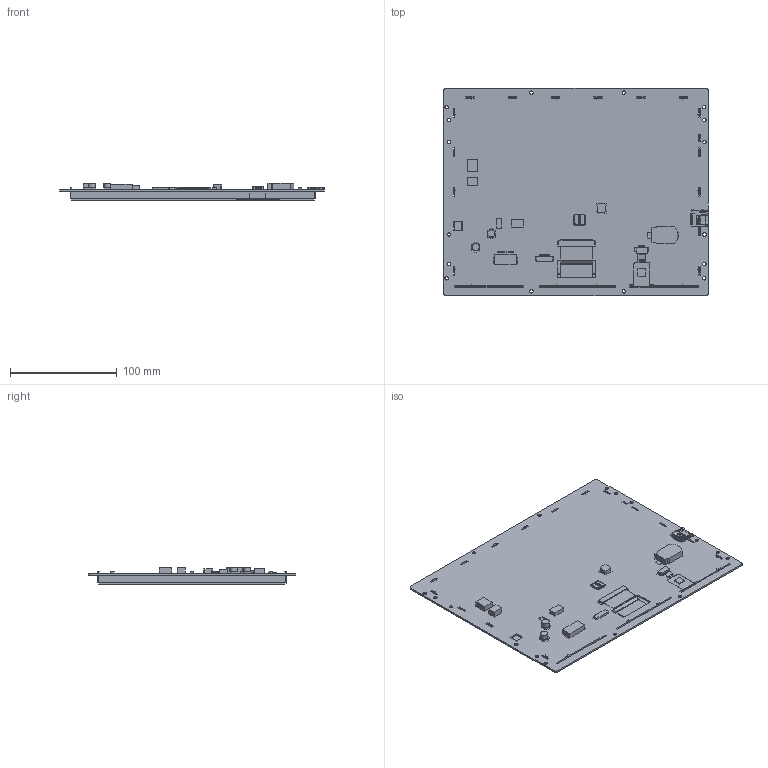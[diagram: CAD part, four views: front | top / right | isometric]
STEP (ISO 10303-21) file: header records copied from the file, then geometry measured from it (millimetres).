
FILE_DESCRIPTION(/* description */ (''),/* implementation_level */ '2;1');
FILE_NAME(/* name */ '',/* time_stamp */ '2021-08-14T08:57:18+08:00',/* author */ (''),/* organization */ (''),/* preprocessor_version */ 'ST-DEVELOPER v11',/* originating_system */ 'SIEMENS PLM Software NX 7.5',/* authorisation */ '');
FILE_SCHEMA (('AP203_CONFIGURATION_CONTROLLED_3D_DESIGN_OF_MECHANICAL_PARTS_AND_ASSEMBLIES_MIM_LF'));
Products named in the file (1): SDWb104T84C
Bounding box: 247.8 x 193.7 x 16.62 mm (x, y, z)
Volume: 160690.7 mm3; surface area: 281930.2 mm2
Topology: 24 solids, 24 shells, 2995 faces, 8574 edges, 5641 vertices
Faces by surface type: plane 2500, cylinder 487, bspline 7, cone 1
Full cylindrical faces by diameter (mm): 3.2 x16, 6.776 x2
Entity records: 99800 total; most frequent: CARTESIAN_POINT 17844, ORIENTED_EDGE 16990, DIRECTION 15422, EDGE_CURVE 8495, LINE 7496, VECTOR 7496, VERTEX_POINT 5556, AXIS2_PLACEMENT_3D 3963
